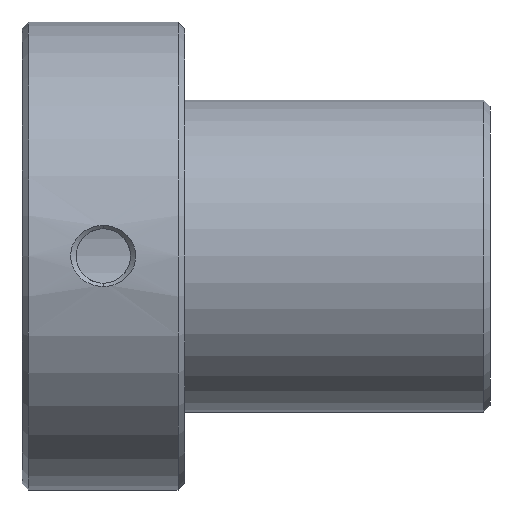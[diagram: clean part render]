
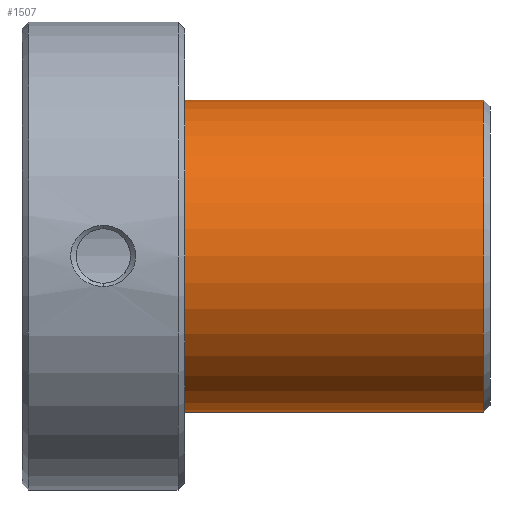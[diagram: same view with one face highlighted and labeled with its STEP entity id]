
A CAD part, front view. The second image highlights one B-rep face of the part: STEP entity #1507.
In plain terms, the highlighted cylindrical face has radius 24 mm (diameter 48 mm), a partial arc.
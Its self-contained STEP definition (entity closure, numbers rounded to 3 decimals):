
#837=CARTESIAN_POINT('Vertex',(25.,0.,-24.)) ;
#842=CARTESIAN_POINT('Axis2P3D Location',(25.,0.,0.)) ;
#846=CARTESIAN_POINT('Vertex',(25.,-24.,0.)) ;
#849=CARTESIAN_POINT('Axis2P3D Location',(25.,0.,0.)) ;
#853=CARTESIAN_POINT('Vertex',(25.,0.,24.)) ;
#1447=CARTESIAN_POINT('Line Origine',(72.,0.,24.)) ;
#1451=CARTESIAN_POINT('Vertex',(71.,0.,24.)) ;
#1465=CARTESIAN_POINT('Vertex',(71.,0.,-24.)) ;
#1468=CARTESIAN_POINT('Line Origine',(72.,0.,-24.)) ;
#1482=CARTESIAN_POINT('Axis2P3D Location',(72.,0.,0.)) ;
#1487=CARTESIAN_POINT('Axis2P3D Location',(71.,0.,0.)) ;
#1491=CARTESIAN_POINT('Vertex',(71.,-24.,0.)) ;
#1494=CARTESIAN_POINT('Axis2P3D Location',(71.,0.,0.)) ;
#843=DIRECTION('Axis2P3D Direction',(1.,0.,-0.)) ;
#850=DIRECTION('Axis2P3D Direction',(1.,0.,-0.)) ;
#1448=DIRECTION('Vector Direction',(-1.,0.,0.)) ;
#1469=DIRECTION('Vector Direction',(-1.,0.,0.)) ;
#1483=DIRECTION('Axis2P3D Direction',(-1.,-0.,-0.)) ;
#1484=DIRECTION('Axis2P3D XDirection',(0.,0.,-1.)) ;
#1488=DIRECTION('Axis2P3D Direction',(-1.,-0.,-0.)) ;
#1495=DIRECTION('Axis2P3D Direction',(-1.,-0.,-0.)) ;
#844=AXIS2_PLACEMENT_3D('Circle Axis2P3D',#842,#843,$) ;
#851=AXIS2_PLACEMENT_3D('Circle Axis2P3D',#849,#850,$) ;
#1485=AXIS2_PLACEMENT_3D('Cylinder Axis2P3D',#1482,#1483,#1484) ;
#1489=AXIS2_PLACEMENT_3D('Circle Axis2P3D',#1487,#1488,$) ;
#1496=AXIS2_PLACEMENT_3D('Circle Axis2P3D',#1494,#1495,$) ;
#1500=ORIENTED_EDGE('',*,*,#1472,.T.) ;
#1501=ORIENTED_EDGE('',*,*,#1493,.F.) ;
#1502=ORIENTED_EDGE('',*,*,#1498,.F.) ;
#1503=ORIENTED_EDGE('',*,*,#1453,.T.) ;
#1504=ORIENTED_EDGE('',*,*,#855,.T.) ;
#1505=ORIENTED_EDGE('',*,*,#848,.T.) ;
#1449=VECTOR('Line Direction',#1448,1.) ;
#1470=VECTOR('Line Direction',#1469,1.) ;
#1507=ADVANCED_FACE('346-31',(#1506),#1486,.T.) ;
#845=CIRCLE('generated circle',#844,24.) ;
#852=CIRCLE('generated circle',#851,24.) ;
#1490=CIRCLE('generated circle',#1489,24.) ;
#1497=CIRCLE('generated circle',#1496,24.) ;
#1486=CYLINDRICAL_SURFACE('generated cylinder',#1485,24.) ;
#848=EDGE_CURVE('',#847,#838,#845,.T.) ;
#855=EDGE_CURVE('',#854,#847,#852,.T.) ;
#1453=EDGE_CURVE('',#1452,#854,#1450,.T.) ;
#1472=EDGE_CURVE('',#838,#1466,#1471,.F.) ;
#1493=EDGE_CURVE('',#1492,#1466,#1490,.F.) ;
#1498=EDGE_CURVE('',#1452,#1492,#1497,.F.) ;
#1499=EDGE_LOOP('',(#1500,#1501,#1502,#1503,#1504,#1505)) ;
#1506=FACE_OUTER_BOUND('',#1499,.T.) ;
#1450=LINE('Line',#1447,#1449) ;
#1471=LINE('Line',#1468,#1470) ;
#838=VERTEX_POINT('',#837) ;
#847=VERTEX_POINT('',#846) ;
#854=VERTEX_POINT('',#853) ;
#1452=VERTEX_POINT('',#1451) ;
#1466=VERTEX_POINT('',#1465) ;
#1492=VERTEX_POINT('',#1491) ;
